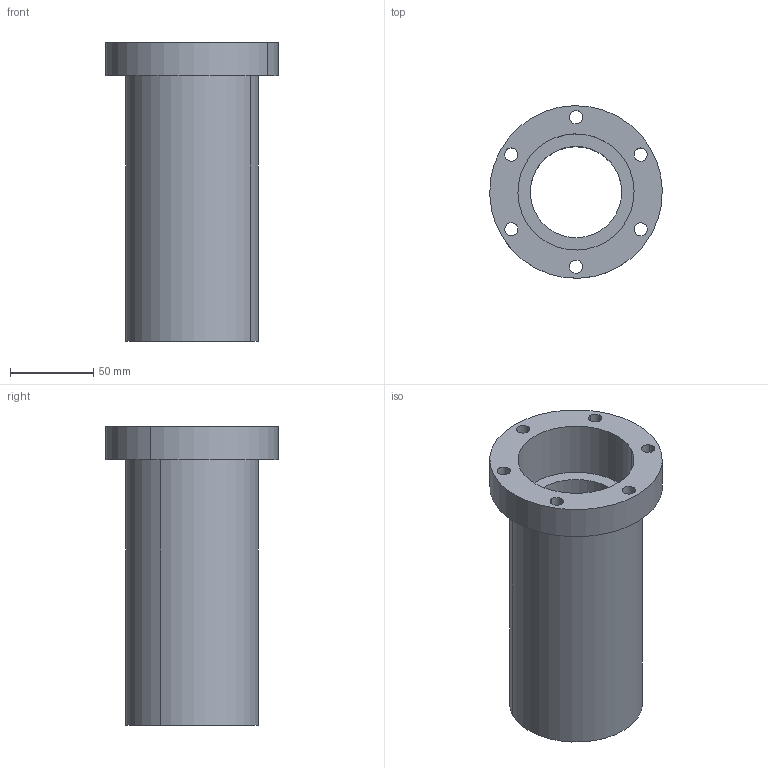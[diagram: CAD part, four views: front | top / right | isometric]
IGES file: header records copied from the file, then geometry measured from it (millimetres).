
Start section: START RECORD GO HERE.
Global section: file name: R8_Housing.igs; native system: IBM CATIA IGES - CATIA Version 5 Release 18 ; preprocessor: CATIA Version 5 Release 18 ; author: Barry; organization: win764bit; date: 20170723.073232; units: millimetre
Bounding box: 103.97 x 103.97 x 180 mm (x, y, z)
Surface area: 94101.7 mm2 (no closed solid volume)
Topology: 0 solids, 0 shells, 24 faces, 120 edges, 120 vertices
Faces by surface type: revolution 20, plane 4
